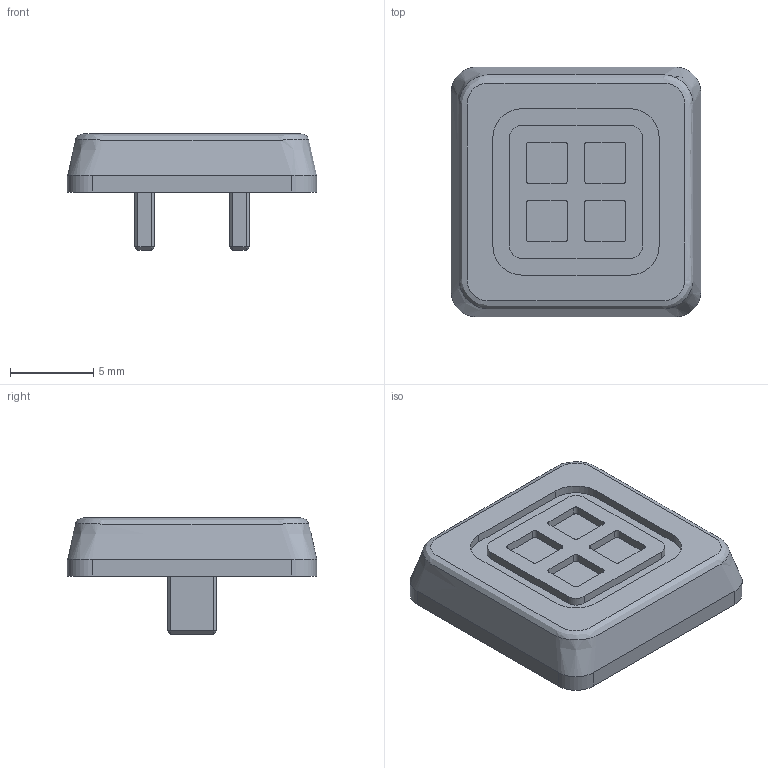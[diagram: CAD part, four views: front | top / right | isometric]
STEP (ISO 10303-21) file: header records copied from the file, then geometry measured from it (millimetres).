
FILE_DESCRIPTION(/* description */ (''),/* implementation_level */ '2;1');
FILE_NAME(/* name */ 'button_enter.step',/* time_stamp */ '2026-07-06T12:56:35-05:00',/* author */ (''),/* organization */ (''),/* preprocessor_version */ 'ST-DEVELOPER v20.1',/* originating_system */ 'Autodesk Translation Framework v15.8.0.0',/* authorisation */ '');
FILE_SCHEMA (('AUTOMOTIVE_DESIGN { 1 0 10303 214 3 1 1 }'));
Length unit declared in the file: millimetre
Products named in the file (1): SaturnixLite_Hull
Bounding box: 15 x 15 x 7 mm (x, y, z)
Volume: 637.9 mm3; surface area: 747.9 mm2
Topology: 1 solids, 1 shells, 109 faces, 276 edges, 178 vertices
Faces by surface type: plane 75, cylinder 32, bspline 2
Entity records: 4271 total; most frequent: CARTESIAN_POINT 1581, ORIENTED_EDGE 552, DIRECTION 547, EDGE_CURVE 276, LINE 201, VECTOR 201, VERTEX_POINT 178, AXIS2_PLACEMENT_3D 173
